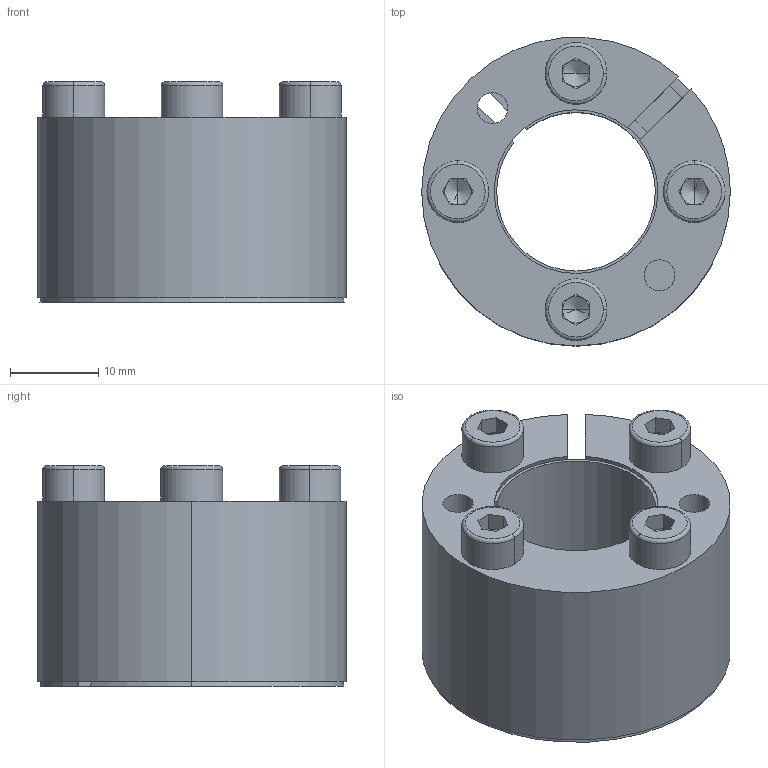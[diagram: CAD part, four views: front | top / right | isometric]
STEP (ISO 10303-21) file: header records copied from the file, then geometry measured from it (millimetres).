
FILE_DESCRIPTION (( 'STEP AP214' ), '1' );
FILE_NAME ('CONEX-K-18x35.step', '2013-04-06T13:20:41', ( 'Pc' ), ( '' ), 'SwSTEP 2.0', 'SolidWorks 2013', '' );
FILE_SCHEMA (( 'AUTOMOTIVE_DESIGN' ));
Length unit declared in the file: millimetre
Products named in the file (1): CONEX-K-18x35
Bounding box: 35 x 34.96 x 24.99 mm (x, y, z)
Volume: 11717.1 mm3; surface area: 11527.5 mm2
Topology: 6 solids, 6 shells, 162 faces, 378 edges, 228 vertices
Faces by surface type: plane 70, cylinder 48, cone 28, torus 16
Entity records: 6473 total; most frequent: DIRECTION 866, CARTESIAN_POINT 785, ORIENTED_EDGE 740, EDGE_CURVE 370, AXIS2_PLACEMENT_3D 341, VERTEX_POINT 228, EDGE_LOOP 190, LINE 184
